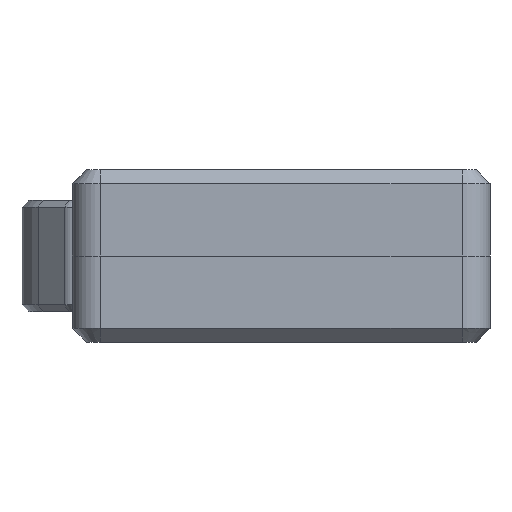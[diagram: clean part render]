
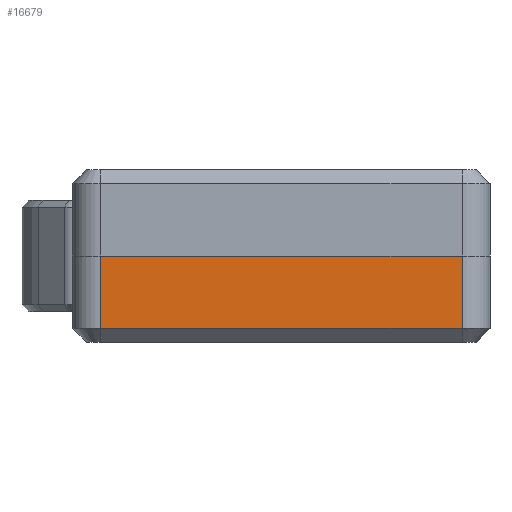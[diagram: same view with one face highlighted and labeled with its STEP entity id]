
A CAD part, front view. The second image highlights one B-rep face of the part: STEP entity #16679.
In plain terms, the highlighted planar face has unit normal (0, -1, 0).
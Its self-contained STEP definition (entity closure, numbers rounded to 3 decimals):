
#1058=FACE_OUTER_BOUND('',#2018,.T.);
#2018=EDGE_LOOP('',(#11289,#11290,#11291,#11292));
#3087=LINE('',#24462,#5031);
#3131=LINE('',#24575,#5075);
#3133=LINE('',#24581,#5077);
#3135=LINE('',#24584,#5079);
#5031=VECTOR('',#19499,10.);
#5075=VECTOR('',#19583,10.);
#5077=VECTOR('',#19593,10.);
#5079=VECTOR('',#19597,10.);
#6951=VERTEX_POINT('',#24459);
#6952=VERTEX_POINT('',#24461);
#6999=VERTEX_POINT('',#24567);
#7001=VERTEX_POINT('',#24573);
#8630=EDGE_CURVE('',#6951,#6952,#3087,.T.);
#8687=EDGE_CURVE('',#7001,#6999,#3131,.T.);
#8691=EDGE_CURVE('',#6999,#6951,#3133,.T.);
#8693=EDGE_CURVE('',#6952,#7001,#3135,.T.);
#11289=ORIENTED_EDGE('',*,*,#8687,.F.);
#11290=ORIENTED_EDGE('',*,*,#8693,.F.);
#11291=ORIENTED_EDGE('',*,*,#8630,.F.);
#11292=ORIENTED_EDGE('',*,*,#8691,.F.);
#15990=PLANE('',#17810);
#16679=ADVANCED_FACE('',(#1058),#15990,.T.);
#17810=AXIS2_PLACEMENT_3D('',#24583,#19595,#19596);
#19499=DIRECTION('',(1.,0.,0.));
#19583=DIRECTION('',(-1.,0.,0.));
#19593=DIRECTION('',(0.,0.,1.));
#19595=DIRECTION('center_axis',(0.,-1.,0.));
#19596=DIRECTION('ref_axis',(1.,0.,0.));
#19597=DIRECTION('',(0.,0.,-1.));
#24459=CARTESIAN_POINT('',(2.,0.,6.2));
#24461=CARTESIAN_POINT('',(28.,0.,6.2));
#24462=CARTESIAN_POINT('',(0.,0.,6.2));
#24567=CARTESIAN_POINT('',(2.,0.,1.));
#24573=CARTESIAN_POINT('',(28.,0.,1.));
#24575=CARTESIAN_POINT('',(14.,0.,1.));
#24581=CARTESIAN_POINT('',(2.,0.,0.));
#24583=CARTESIAN_POINT('Origin',(0.,0.,0.));
#24584=CARTESIAN_POINT('',(28.,0.,0.));
